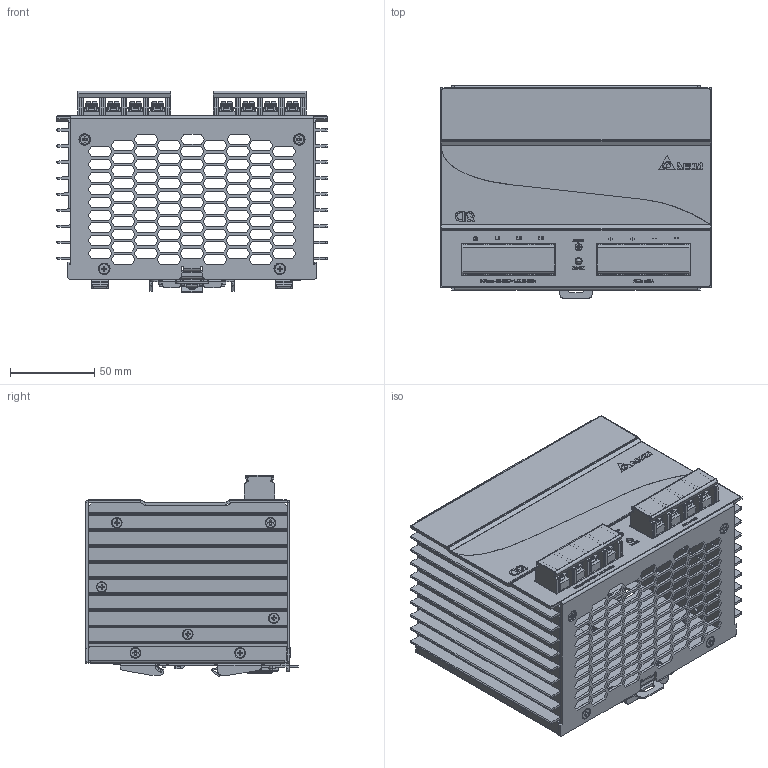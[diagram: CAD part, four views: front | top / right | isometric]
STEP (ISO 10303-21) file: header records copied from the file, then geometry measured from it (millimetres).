
FILE_DESCRIPTION((''),'2;1');
FILE_NAME('DRP024V480W3AA_ASM','2012-04-20T',('Manop.Pr'),(''),'PRO/ENGINEER BY PARAMETRIC TECHNOLOGY CORPORATION, 2010180','PRO/ENGINEER BY PARAMETRIC TECHNOLOGY CORPORATION, 2010180','');
FILE_SCHEMA(('CONFIG_CONTROL_DESIGN','SHAPE_APPEARANCE_LAYERS_GROUPS'));
Products named in the file (28): 331067460102; 334625080202; 334625070202; 346035290101; 346035300101; 3461303000; 3460088100; 3462026200; ASSY_LATCH_50X100_ASM; 2968065903_DCT-659; 3072076546_A_BODY; 3072076546_A_COVER; 3072076546_A_SCREW; 3072076546_ASM; EE_LED01; EE_VR1; ASSY_DCT-659_ASM; 331067480001; 326801030101; 326304020304; 326306280000; 3202315200; 3100000600; 3105039100; 3105221600; 3100000800; 3103000600; DRP024V480W3AA_ASM
Assembly tree (56 placements, depth 4):
  DRP024V480W3AA_ASM
    331067460102
    334625080202
    334625070202
    346035290101
    346035300101
    ASSY_LATCH_50X100_ASM
      3461303000
      3460088100
      3462026200
    ASSY_DCT-659_ASM
      2968065903_DCT-659
      3072076546_ASM  x2
        3072076546_A_BODY
        3072076546_A_COVER
        3072076546_A_SCREW
      EE_LED01
      EE_VR1
    331067480001
    326801030101
    326304020304
    326306280000
    3202315200
    3100000600  x12
    3105039100  x2
    3105221600  x4
    3100000800  x8
    3103000600  x4
Bounding box: 160 x 126 x 119.54 mm (x, y, z)
Volume: 234866.7 mm3; surface area: 317408 mm2
Topology: 60 solids, 60 shells, 7161 faces, 18499 edges, 11550 vertices
Faces by surface type: plane 4756, cylinder 1090, extrusion 479, cone 412, bspline 340, torus 82, sphere 2
Entity records: 187400 total; most frequent: CARTESIAN_POINT 36168, ORIENTED_EDGE 24286, DIRECTION 21325, EDGE_CURVE 12143, PRESENTATION_STYLE_ASSIGNMENT 11915, STYLED_ITEM 11757, CURVE_STYLE 11731, VECTOR 9999
